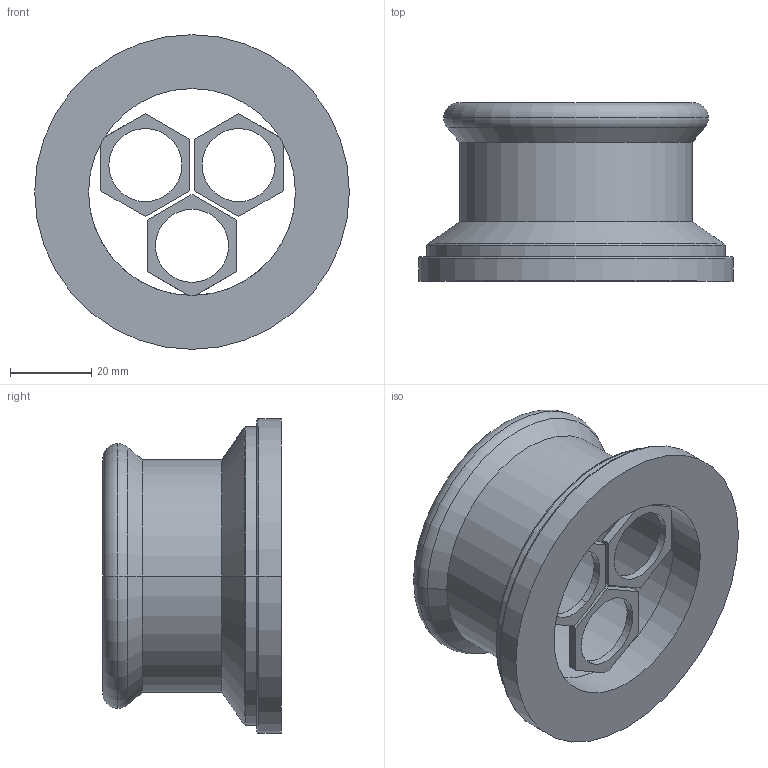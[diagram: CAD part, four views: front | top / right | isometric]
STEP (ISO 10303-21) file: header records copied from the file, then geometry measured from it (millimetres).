
FILE_DESCRIPTION(('OneSpaceDesigner STEP Export'),'2;1');
FILE_NAME('R2736 54x2.3-4.stp','2010-06-10T14:09:48',(''),(''),'OneSpace Designer STEP processor for AP214 (Solid Model)','OneSpace Modeling 15.00A 14-Mar-2007 (C) CoCreate Software GmbH','');
FILE_SCHEMA(('AUTOMOTIVE_DESIGN { 1 0 10303 214 1 1 1 1 }'));
Length unit declared in the file: millimetre
Products named in the file (2): R2736_54x2.3-4
Assembly tree (1 placements, depth 2):
  R2736_54x2.3-4
    R2736_54x2.3-4
Bounding box: 77.6 x 44 x 77.6 mm (x, y, z)
Volume: 42426.1 mm3; surface area: 23350 mm2
Topology: 1 solids, 1 shells, 65 faces, 158 edges, 101 vertices
Faces by surface type: plane 32, cylinder 21, torus 8, cone 4
Entity records: 1711 total; most frequent: ORIENTED_EDGE 316, CARTESIAN_POINT 273, DIRECTION 253, EDGE_CURVE 158, VERTEX_POINT 101, VECTOR 91, LINE 91, AXIS2_PLACEMENT_3D 81
